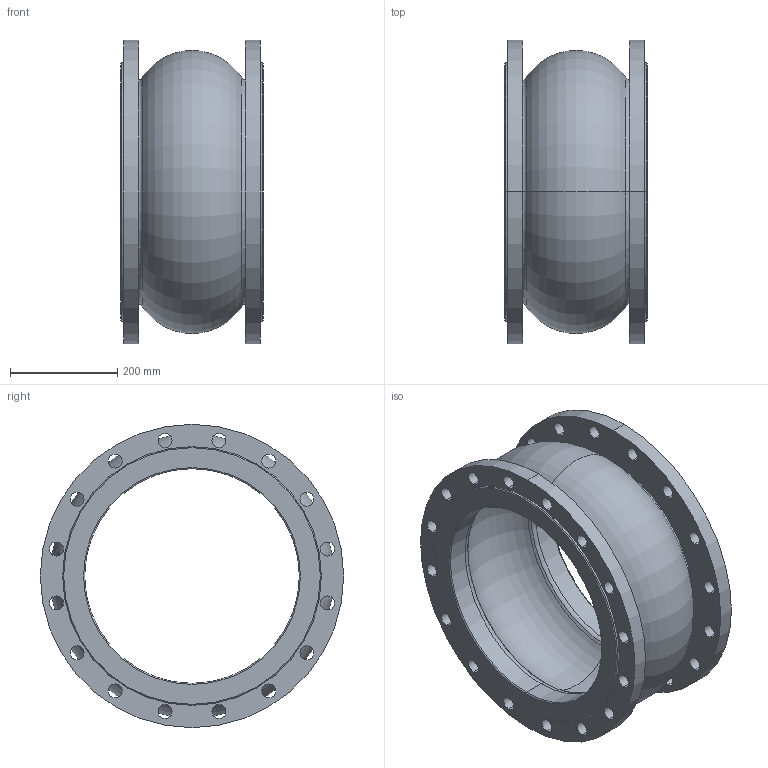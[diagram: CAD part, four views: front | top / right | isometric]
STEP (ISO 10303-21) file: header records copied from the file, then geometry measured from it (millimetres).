
FILE_DESCRIPTION (( 'STEP AP203' ), '1' );
FILE_NAME ('F8_PN10_DN400.STEP', '2012-10-31T09:21:30', ( 'luca.saino' ), ( 'Hewlett-Packard Company' ), 'SwSTEP 2.0', 'SolidWorks 2012', '' );
FILE_SCHEMA (( 'CONFIG_CONTROL_DESIGN' ));
Length unit declared in the file: millimetre
Products named in the file (1): F8_PN10_DN400
Bounding box: 266 x 565 x 565 mm (x, y, z)
Volume: 11966439.1 mm3; surface area: 1438955.4 mm2
Topology: 1 solids, 1 shells, 106 faces, 276 edges, 176 vertices
Faces by surface type: cylinder 76, torus 16, cone 8, plane 6
Entity records: 3549 total; most frequent: DIRECTION 682, CARTESIAN_POINT 559, ORIENTED_EDGE 552, AXIS2_PLACEMENT_3D 299, EDGE_CURVE 276, CIRCLE 192, EDGE_LOOP 176, VERTEX_POINT 176
